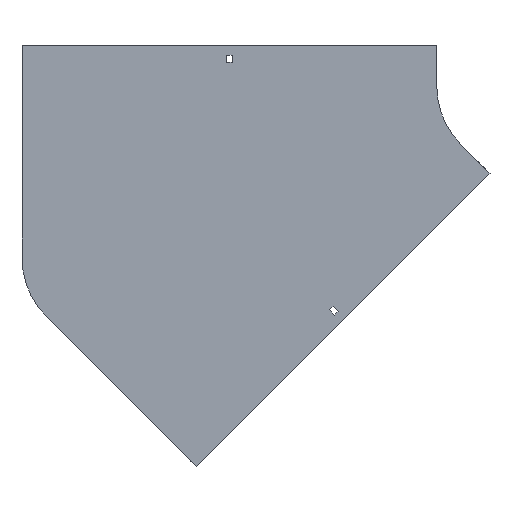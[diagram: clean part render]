
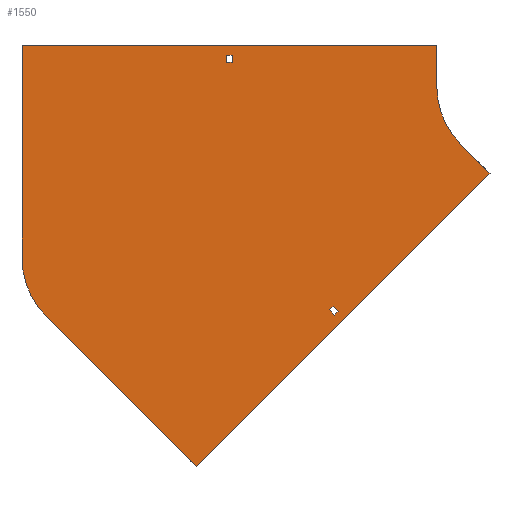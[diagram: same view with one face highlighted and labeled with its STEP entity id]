
A CAD part, front view. The second image highlights one B-rep face of the part: STEP entity #1550.
In plain terms, the highlighted planar face has unit normal (0, -1, 0).
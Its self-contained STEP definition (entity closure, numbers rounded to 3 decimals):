
#9 = LINE ( 'NONE', #1228, #1744 ) ;
#19 = VERTEX_POINT ( 'NONE', #449 ) ;
#41 = CARTESIAN_POINT ( 'NONE',  ( -70.711, 0., -70.711 ) ) ;
#69 = VERTEX_POINT ( 'NONE', #879 ) ;
#102 = LINE ( 'NONE', #1336, #1862 ) ;
#103 = CARTESIAN_POINT ( 'NONE',  ( -224.33, 0., -278.07 ) ) ;
#109 = LINE ( 'NONE', #737, #1948 ) ;
#120 = VERTEX_POINT ( 'NONE', #1565 ) ;
#138 = ORIENTED_EDGE ( 'NONE', *, *, #860, .T. ) ;
#146 = CARTESIAN_POINT ( 'NONE',  ( -100., 0., 50. ) ) ;
#177 = FACE_BOUND ( 'NONE', #552, .T. ) ;
#192 = EDGE_CURVE ( 'NONE', #1418, #1331, #657, .T. ) ;
#193 = CARTESIAN_POINT ( 'NONE',  ( -604., 0., 50. ) ) ;
#206 = DIRECTION ( 'NONE',  ( 0., 0., 1. ) ) ;
#207 = VERTEX_POINT ( 'NONE', #1042 ) ;
#222 = VECTOR ( 'NONE', #1815, 1000. ) ;
#224 = EDGE_LOOP ( 'NONE', ( #670, #523, #1351, #462, #1467, #1257, #1265, #732 ) ) ;
#232 = EDGE_CURVE ( 'NONE', #1149, #1694, #1633, .T. ) ;
#241 = EDGE_CURVE ( 'NONE', #1032, #1056, #894, .T. ) ;
#242 = EDGE_CURVE ( 'NONE', #919, #1451, #109, .T. ) ;
#261 = VECTOR ( 'NONE', #303, 1000. ) ;
#265 = CARTESIAN_POINT ( 'NONE',  ( -348.75, 0., 29. ) ) ;
#286 = CARTESIAN_POINT ( 'NONE',  ( -574.711, 0., -279.474 ) ) ;
#302 = EDGE_CURVE ( 'NONE', #1331, #1416, #102, .T. ) ;
#303 = DIRECTION ( 'NONE',  ( 1., 0., 0. ) ) ;
#314 = VECTOR ( 'NONE', #1846, 1000. ) ;
#315 = DIRECTION ( 'NONE',  ( 0., -1., 0. ) ) ;
#322 = ORIENTED_EDGE ( 'NONE', *, *, #1849, .F. ) ;
#399 = CARTESIAN_POINT ( 'NONE',  ( 0., 0., 0. ) ) ;
#411 = EDGE_CURVE ( 'NONE', #1694, #207, #1365, .T. ) ;
#430 = EDGE_CURVE ( 'NONE', #120, #1149, #1504, .T. ) ;
#449 = CARTESIAN_POINT ( 'NONE',  ( -355.25, 0., 29. ) ) ;
#460 = AXIS2_PLACEMENT_3D ( 'NONE', #810, #687, #206 ) ;
#462 = ORIENTED_EDGE ( 'NONE', *, *, #242, .F. ) ;
#501 = ORIENTED_EDGE ( 'NONE', *, *, #1248, .T. ) ;
#514 = CARTESIAN_POINT ( 'NONE',  ( -355.25, 0., 29. ) ) ;
#523 = ORIENTED_EDGE ( 'NONE', *, *, #731, .F. ) ;
#524 = VECTOR ( 'NONE', #1355, 1000. ) ;
#525 = LINE ( 'NONE', #193, #1676 ) ;
#528 = EDGE_CURVE ( 'NONE', #1646, #120, #525, .T. ) ;
#552 = EDGE_LOOP ( 'NONE', ( #601, #716, #322, #1363 ) ) ;
#553 = DIRECTION ( 'NONE',  ( 0., 0., 1. ) ) ;
#557 = DIRECTION ( 'NONE',  ( 0., 0., -1. ) ) ;
#564 = CARTESIAN_POINT ( 'NONE',  ( -604., 0., -208.764 ) ) ;
#601 = ORIENTED_EDGE ( 'NONE', *, *, #302, .F. ) ;
#607 = LINE ( 'NONE', #1674, #1311 ) ;
#633 = ORIENTED_EDGE ( 'NONE', *, *, #1777, .T. ) ;
#646 = CARTESIAN_POINT ( 'NONE',  ( -230.694, 0., -271.706 ) ) ;
#653 = DIRECTION ( 'NONE',  ( 1., 0., 0. ) ) ;
#656 = VECTOR ( 'NONE', #553, 1000. ) ;
#657 = LINE ( 'NONE', #646, #1848 ) ;
#670 = ORIENTED_EDGE ( 'NONE', *, *, #528, .F. ) ;
#687 = DIRECTION ( 'NONE',  ( 0., 1., 0. ) ) ;
#716 = ORIENTED_EDGE ( 'NONE', *, *, #192, .F. ) ;
#731 = EDGE_CURVE ( 'NONE', #1471, #1646, #1629, .T. ) ;
#732 = ORIENTED_EDGE ( 'NONE', *, *, #430, .F. ) ;
#737 = CARTESIAN_POINT ( 'NONE',  ( -391.737, 0., -462.448 ) ) ;
#743 = LINE ( 'NONE', #1660, #261 ) ;
#756 = PLANE ( 'NONE',  #878 ) ;
#769 = DIRECTION ( 'NONE',  ( 0., 0., 1. ) ) ;
#810 = CARTESIAN_POINT ( 'NONE',  ( -504., 0., -208.764 ) ) ;
#843 = CARTESIAN_POINT ( 'NONE',  ( -391.737, 0., -462.448 ) ) ;
#844 = VECTOR ( 'NONE', #557, 1000. ) ;
#860 = EDGE_CURVE ( 'NONE', #69, #1032, #743, .T. ) ;
#875 = EDGE_CURVE ( 'NONE', #207, #919, #9, .T. ) ;
#878 = AXIS2_PLACEMENT_3D ( 'NONE', #1828, #315, #1393 ) ;
#879 = CARTESIAN_POINT ( 'NONE',  ( -355.25, 0., 38. ) ) ;
#894 = LINE ( 'NONE', #265, #844 ) ;
#912 = CARTESIAN_POINT ( 'NONE',  ( -226.097, 0., -267.11 ) ) ;
#913 = CARTESIAN_POINT ( 'NONE',  ( -230.694, 0., -271.706 ) ) ;
#919 = VERTEX_POINT ( 'NONE', #843 ) ;
#966 = LINE ( 'NONE', #514, #1062 ) ;
#1003 = CIRCLE ( 'NONE', #460, 100. ) ;
#1006 = DIRECTION ( 'NONE',  ( -1., 0., 0. ) ) ;
#1025 = DIRECTION ( 'NONE',  ( 0., 0., -1. ) ) ;
#1032 = VERTEX_POINT ( 'NONE', #1506 ) ;
#1042 = CARTESIAN_POINT ( 'NONE',  ( -35.355, 0., -106.066 ) ) ;
#1056 = VERTEX_POINT ( 'NONE', #1647 ) ;
#1062 = VECTOR ( 'NONE', #1006, 1000. ) ;
#1091 = FACE_BOUND ( 'NONE', #1630, .T. ) ;
#1092 = LINE ( 'NONE', #913, #1124 ) ;
#1124 = VECTOR ( 'NONE', #1690, 1000. ) ;
#1136 = ORIENTED_EDGE ( 'NONE', *, *, #241, .T. ) ;
#1149 = VERTEX_POINT ( 'NONE', #1516 ) ;
#1215 = FACE_OUTER_BOUND ( 'NONE', #224, .T. ) ;
#1228 = CARTESIAN_POINT ( 'NONE',  ( -35.355, 0., -106.066 ) ) ;
#1243 = DIRECTION ( 'NONE',  ( 0.707, 0., -0.707 ) ) ;
#1248 = EDGE_CURVE ( 'NONE', #19, #69, #607, .T. ) ;
#1257 = ORIENTED_EDGE ( 'NONE', *, *, #411, .F. ) ;
#1265 = ORIENTED_EDGE ( 'NONE', *, *, #232, .F. ) ;
#1294 = VERTEX_POINT ( 'NONE', #1722 ) ;
#1306 = CARTESIAN_POINT ( 'NONE',  ( -219.733, 0., -273.474 ) ) ;
#1307 = AXIS2_PLACEMENT_3D ( 'NONE', #399, #1615, #1025 ) ;
#1310 = EDGE_CURVE ( 'NONE', #1451, #1471, #1003, .T. ) ;
#1311 = VECTOR ( 'NONE', #769, 1000. ) ;
#1327 = CARTESIAN_POINT ( 'NONE',  ( -230.694, 0., -271.706 ) ) ;
#1331 = VERTEX_POINT ( 'NONE', #103 ) ;
#1336 = CARTESIAN_POINT ( 'NONE',  ( -224.33, 0., -278.07 ) ) ;
#1351 = ORIENTED_EDGE ( 'NONE', *, *, #1310, .F. ) ;
#1355 = DIRECTION ( 'NONE',  ( -0.707, 0., 0.707 ) ) ;
#1363 = ORIENTED_EDGE ( 'NONE', *, *, #1621, .F. ) ;
#1365 = LINE ( 'NONE', #41, #314 ) ;
#1393 = DIRECTION ( 'NONE',  ( 0., 0., -1. ) ) ;
#1416 = VERTEX_POINT ( 'NONE', #1306 ) ;
#1418 = VERTEX_POINT ( 'NONE', #1327 ) ;
#1451 = VERTEX_POINT ( 'NONE', #286 ) ;
#1467 = ORIENTED_EDGE ( 'NONE', *, *, #875, .F. ) ;
#1471 = VERTEX_POINT ( 'NONE', #1927 ) ;
#1472 = DIRECTION ( 'NONE',  ( 0.707, 0., 0.707 ) ) ;
#1504 = LINE ( 'NONE', #146, #222 ) ;
#1506 = CARTESIAN_POINT ( 'NONE',  ( -348.75, 0., 38. ) ) ;
#1516 = CARTESIAN_POINT ( 'NONE',  ( -100., 0., 0. ) ) ;
#1550 = ADVANCED_FACE ( 'NONE', ( #1091, #1215, #177 ), #756, .T. ) ;
#1565 = CARTESIAN_POINT ( 'NONE',  ( -100., 0., 50. ) ) ;
#1584 = CARTESIAN_POINT ( 'NONE',  ( -70.711, 0., -70.711 ) ) ;
#1615 = DIRECTION ( 'NONE',  ( 0., -1., 0. ) ) ;
#1621 = EDGE_CURVE ( 'NONE', #1416, #1294, #1806, .T. ) ;
#1629 = LINE ( 'NONE', #564, #656 ) ;
#1630 = EDGE_LOOP ( 'NONE', ( #501, #138, #1136, #633 ) ) ;
#1631 = DIRECTION ( 'NONE',  ( -0.707, 0., 0.707 ) ) ;
#1633 = CIRCLE ( 'NONE', #1307, 100. ) ;
#1646 = VERTEX_POINT ( 'NONE', #1708 ) ;
#1647 = CARTESIAN_POINT ( 'NONE',  ( -348.75, 0., 29. ) ) ;
#1660 = CARTESIAN_POINT ( 'NONE',  ( -355.25, 0., 38. ) ) ;
#1674 = CARTESIAN_POINT ( 'NONE',  ( -355.25, 0., 29. ) ) ;
#1676 = VECTOR ( 'NONE', #653, 1000. ) ;
#1690 = DIRECTION ( 'NONE',  ( -0.707, 0., -0.707 ) ) ;
#1694 = VERTEX_POINT ( 'NONE', #1584 ) ;
#1708 = CARTESIAN_POINT ( 'NONE',  ( -604., 0., 50. ) ) ;
#1722 = CARTESIAN_POINT ( 'NONE',  ( -226.097, 0., -267.11 ) ) ;
#1744 = VECTOR ( 'NONE', #1843, 1000. ) ;
#1777 = EDGE_CURVE ( 'NONE', #1056, #19, #966, .T. ) ;
#1806 = LINE ( 'NONE', #912, #524 ) ;
#1815 = DIRECTION ( 'NONE',  ( 0., 0., -1. ) ) ;
#1828 = CARTESIAN_POINT ( 'NONE',  ( 0., 0., 0. ) ) ;
#1843 = DIRECTION ( 'NONE',  ( -0.707, 0., -0.707 ) ) ;
#1846 = DIRECTION ( 'NONE',  ( 0.707, 0., -0.707 ) ) ;
#1848 = VECTOR ( 'NONE', #1243, 1000. ) ;
#1849 = EDGE_CURVE ( 'NONE', #1294, #1418, #1092, .T. ) ;
#1862 = VECTOR ( 'NONE', #1472, 1000. ) ;
#1927 = CARTESIAN_POINT ( 'NONE',  ( -604., 0., -208.764 ) ) ;
#1948 = VECTOR ( 'NONE', #1631, 1000. ) ;
